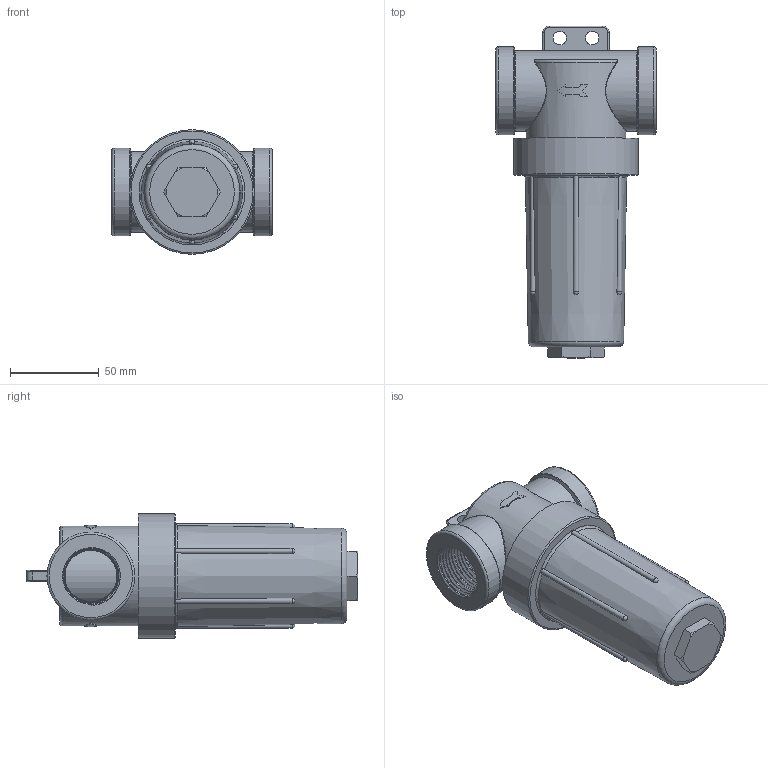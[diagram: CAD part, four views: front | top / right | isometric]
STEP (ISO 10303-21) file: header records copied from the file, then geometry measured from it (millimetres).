
FILE_DESCRIPTION(/* description */ ('Alibre Inc.'),/* implementation_level */ '2;1');
FILE_NAME(/* name */ 'export0',/* time_stamp */ '2019-10-02T17:26:31-04:00',/* author */ (''),/* organization */ (''),/* preprocessor_version */ 'ST-DEVELOPER v17',/* originating_system */ 'Alibre',/* authorisation */ '');
FILE_SCHEMA (('CONFIG_CONTROL_DESIGN'));
Length unit declared in the file: inch
Products named in the file (9): ID_1; ID_2; ID_3; ID_4; ID_5
Bounding box: 90.42 x 187.34 x 70.36 mm (x, y, z)
Volume: 214130.4 mm3; surface area: 143655.1 mm2
Topology: 9 solids, 10 shells, 327 faces, 853 edges, 558 vertices
Faces by surface type: plane 110, cone 91, cylinder 57, bspline 43, torus 20, sphere 6
Full cylindrical faces by diameter (mm): 7.62 x2, 12.47 x1, 28.217 x1, 28.448 x1, 30.298 x1, 32.512 x1, 34.036 x2, 34.544 x1, 36.147 x1, 39.116 x1, 39.988 x1, 40.64 x1, 41.148 x1, 42.164 x2, 42.672 x2, 45.466 x1, 48.345 x1, 49.53 x2, 49.869 x1, 51.533 x1, 51.562 x1, 52.019 x1, 56.386 x1, 56.388 x2, 56.896 x1, 70.358 x1
Entity records: 139634 total; most frequent: CARTESIAN_POINT 132265, ORIENTED_EDGE 1470, DIRECTION 1000, EDGE_CURVE 735, VERTEX_POINT 508, AXIS2_PLACEMENT_3D 452, FACE_BOUND 401, EDGE_LOOP 400
